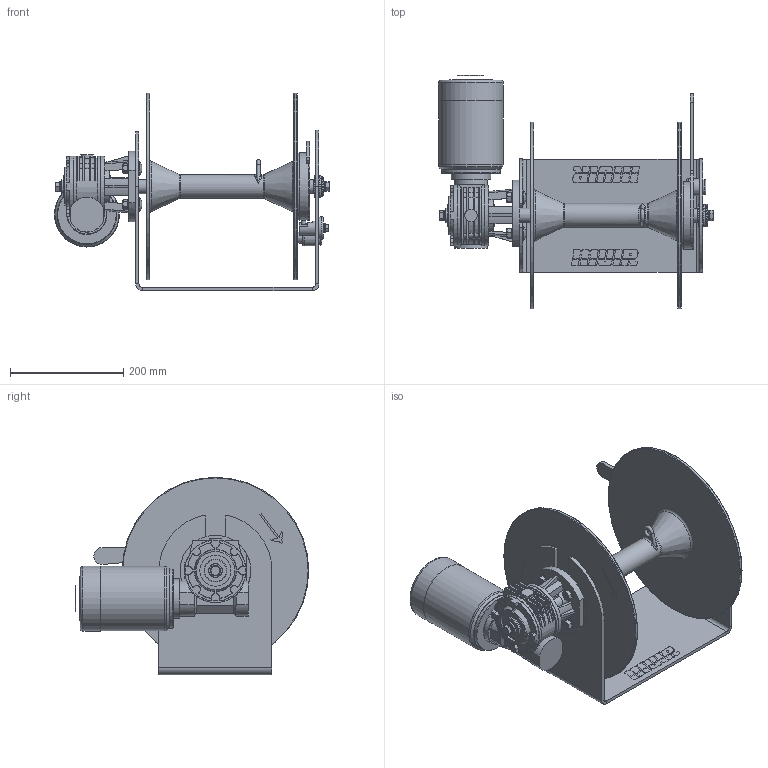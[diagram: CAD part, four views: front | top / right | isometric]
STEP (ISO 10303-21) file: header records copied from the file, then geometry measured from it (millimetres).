
FILE_DESCRIPTION(/* description */ (''),/* implementation_level */ '2;1');
FILE_NAME(/* name */ 'DFF10.stp',/* time_stamp */ '2025-12-08T09:06:22+11:00',/* author */ ('markus.mendgen'),/* organization */ (''),/* preprocessor_version */ 'ST-DEVELOPER v20',/* originating_system */ 'Autodesk Inventor 2025',/* authorisation */ '');
FILE_SCHEMA (('AUTOMOTIVE_DESIGN { 1 0 10303 214 3 1 1 }'));
Length unit declared in the file: millimetre
Products named in the file (1): DFF10
Bounding box: 486.77 x 413 x 349.21 mm (x, y, z)
Volume: 5713562.9 mm3; surface area: 939099 mm2
Topology: 1 solids, 2 shells, 1122 faces, 2934 edges, 1846 vertices
Faces by surface type: plane 468, cylinder 454, torus 76, cone 57, sphere 37, bspline 30
Full cylindrical faces by diameter (mm): 8 x2, 10 x6, 11.63 x1, 16 x1, 16.2 x1, 18 x2, 20 x1, 20.1 x1, 20.4 x1, 20.8 x1, 22 x1, 24 x2, 24.55 x1, 24.65 x4, 24.98 x2, 25 x3, 27.2 x1, 30 x2, 32.2 x1, 35 x1, 37 x1, 39.5 x1, 40 x4, 42.5 x1, 55 x2, 68 x1, 70 x2, 104.5 x1, 107 x2, 107.5 x1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
Entity records: 36032 total; most frequent: CARTESIAN_POINT 7986, DIRECTION 6223, ORIENTED_EDGE 5784, EDGE_CURVE 2894, AXIS2_PLACEMENT_3D 2441, VERTEX_POINT 1846, LINE 1341, VECTOR 1341
